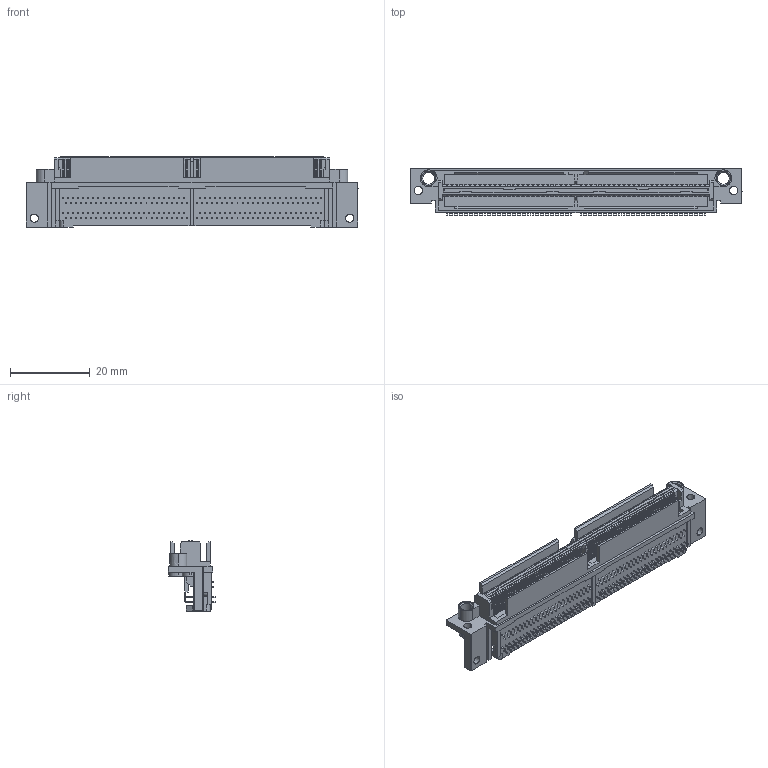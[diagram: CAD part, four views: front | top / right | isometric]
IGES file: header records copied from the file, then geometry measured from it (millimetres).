
Start section: SolidWorks IGES file using analytic representation for surfaces
Global section: file name: 136HC:\3dwork\Watanabe\20240403_MINIDOCK WEB3D\提出\Web用3D MINIDOCK RA PLUG (30094)\30094-200T-FC MINIDOCK RIGHT ANGLE PLUG IGES R0 ALL.IGS; native system: SolidWorks 2023; preprocessor: SolidWorks 2023; author: E1480; date: 240405.095938; units: millimetre
Bounding box: 83.4 x 11.86 x 17.65 mm (x, y, z)
Surface area: 8774.8 mm2 (no closed solid volume)
Topology: 0 solids, 0 shells, 4932 faces, 32276 edges, 32276 vertices
Faces by surface type: bspline 4280, revolution 652
